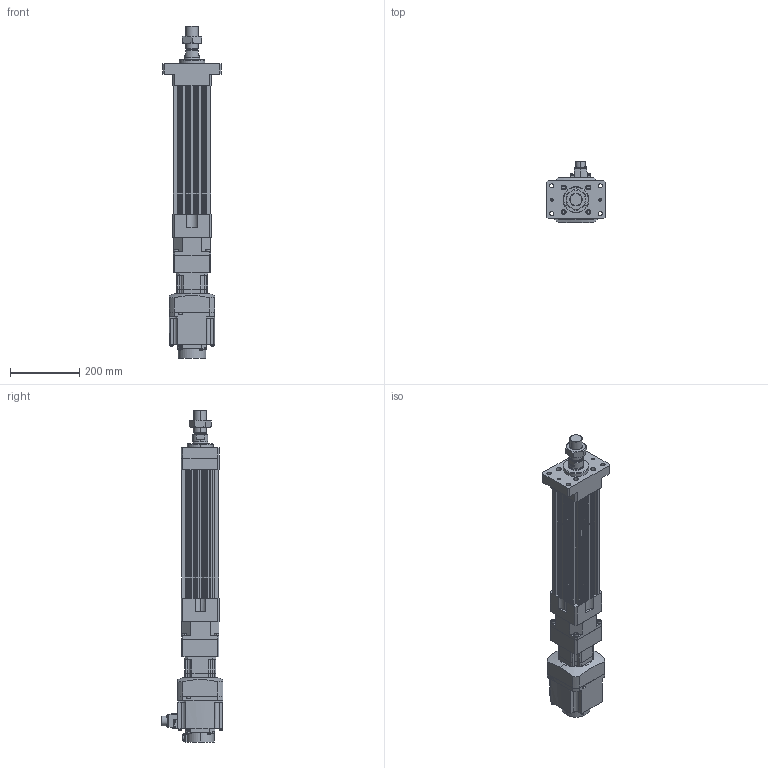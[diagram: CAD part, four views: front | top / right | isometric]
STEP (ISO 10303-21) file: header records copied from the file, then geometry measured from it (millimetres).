
FILE_DESCRIPTION (( 'STEP AP203' ), '1' );
FILE_NAME ('HES110NS(HS)-S200-W010G00-M-FM.STEP', '2023-01-27T07:12:34', ( 'tms' ), ( '' ), 'SwSTEP 2.0', 'SolidWorks 2013', '' );
FILE_SCHEMA (( 'CONFIG_CONTROL_DESIGN' ));
Length unit declared in the file: millimetre
Products named in the file (8): HG-SR102; AB0901; HES110-S200-G090-FM; AB090-003[HG-SR102B]; HES110NS(HS)-S200-W010G00-M-FM; M36X1.5P; HES110 ROD M ST200; P0401301004
Assembly tree (7 placements, depth 3):
  HES110NS(HS)-S200-W010G00-M-FM
    HES110-S200-G090-FM
    HES110 ROD M ST200
    M36X1.5P
    AB090-003[HG-SR102B]
      AB0901
      P0401301004
    HG-SR102
Bounding box: 170 x 177.49 x 958.5 mm (x, y, z)
Volume: 6368293.4 mm3; surface area: 820911.1 mm2
Topology: 4 solids, 15 shells, 1165 faces, 2950 edges, 1921 vertices
Faces by surface type: plane 558, cylinder 523, cone 72, bspline 8, torus 4
Entity records: 37081 total; most frequent: CARTESIAN_POINT 7224, DIRECTION 6367, ORIENTED_EDGE 5848, EDGE_CURVE 2934, AXIS2_PLACEMENT_3D 2335, VERTEX_POINT 1921, VECTOR 1697, LINE 1697
